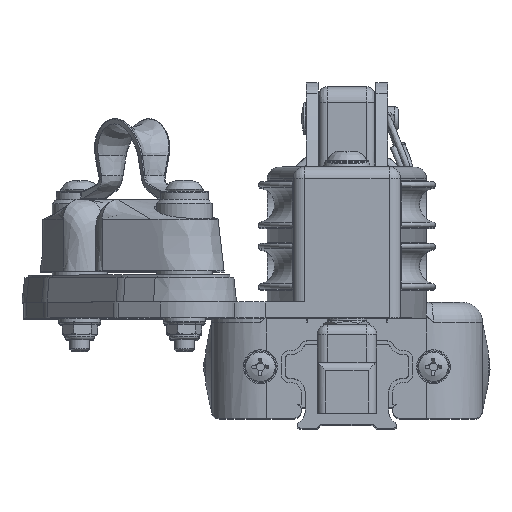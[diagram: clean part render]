
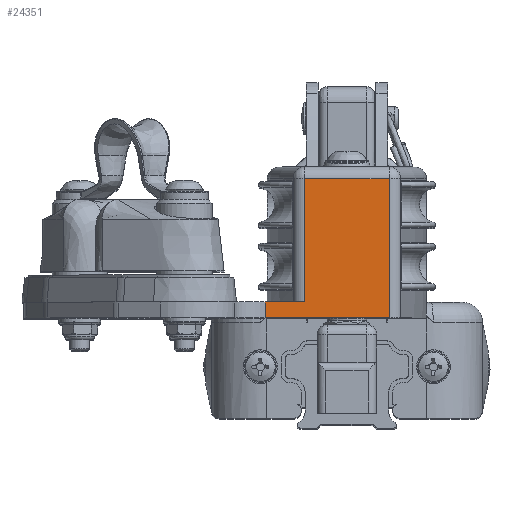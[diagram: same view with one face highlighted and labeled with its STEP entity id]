
A CAD part, top view. The second image highlights one B-rep face of the part: STEP entity #24351.
In plain terms, the highlighted planar face has unit normal (0, 0, 1).
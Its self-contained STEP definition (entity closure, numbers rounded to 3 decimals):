
#1910=LINE('',#53326,#3312);
#2076=LINE('',#54080,#3478);
#2091=LINE('',#54140,#3493);
#2092=LINE('',#54141,#3494);
#2093=LINE('',#54143,#3495);
#2094=LINE('',#54144,#3496);
#3312=VECTOR('',#32437,10.);
#3478=VECTOR('',#33093,10.);
#3493=VECTOR('',#33166,10.);
#3494=VECTOR('',#33167,10.);
#3495=VECTOR('',#33168,10.);
#3496=VECTOR('',#33169,3.);
#6784=FACE_OUTER_BOUND('',#8314,.T.);
#8314=EDGE_LOOP('',(#21125,#21126,#21127,#21128,#21129,#21130));
#10891=VERTEX_POINT('',#53319);
#10894=VERTEX_POINT('',#53324);
#11089=VERTEX_POINT('',#54076);
#11091=VERTEX_POINT('',#54079);
#11107=VERTEX_POINT('',#54139);
#11108=VERTEX_POINT('',#54142);
#14222=EDGE_CURVE('',#10894,#10891,#1910,.T.);
#14524=EDGE_CURVE('',#11089,#11091,#2076,.T.);
#14555=EDGE_CURVE('',#10894,#11107,#2091,.T.);
#14556=EDGE_CURVE('',#11107,#11091,#2092,.T.);
#14557=EDGE_CURVE('',#11108,#11089,#2093,.T.);
#14558=EDGE_CURVE('',#10891,#11108,#2094,.T.);
#21125=ORIENTED_EDGE('',*,*,#14555,.T.);
#21126=ORIENTED_EDGE('',*,*,#14556,.T.);
#21127=ORIENTED_EDGE('',*,*,#14524,.F.);
#21128=ORIENTED_EDGE('',*,*,#14557,.F.);
#21129=ORIENTED_EDGE('',*,*,#14558,.F.);
#21130=ORIENTED_EDGE('',*,*,#14222,.F.);
#23064=PLANE('',#26942);
#24351=ADVANCED_FACE('',(#6784),#23064,.T.);
#26942=AXIS2_PLACEMENT_3D('',#54138,#33164,#33165);
#32437=DIRECTION('',(1.,0.,0.));
#33093=DIRECTION('',(0.,1.,0.));
#33164=DIRECTION('center_axis',(0.,0.,
1.));
#33165=DIRECTION('ref_axis',(0.,1.,0.));
#33166=DIRECTION('',(0.,-1.,0.));
#33167=DIRECTION('',(-1.,0.,0.));
#33168=DIRECTION('',(-1.,0.,0.));
#33169=DIRECTION('',(0.,-1.,0.));
#53319=CARTESIAN_POINT('',(10.6,62.7,102.));
#53324=CARTESIAN_POINT('',(-10.6,62.7,102.));
#53326=CARTESIAN_POINT('',(0.,62.7,102.));
#54076=CARTESIAN_POINT('',(-20.586,27.7,102.));
#54079=CARTESIAN_POINT('',(-20.586,31.7,102.));
#54080=CARTESIAN_POINT('',(-20.586,29.7,102.));
#54138=CARTESIAN_POINT('Origin',(0.,32.7,
102.));
#54139=CARTESIAN_POINT('',(-10.6,31.7,102.));
#54140=CARTESIAN_POINT('',(-10.6,32.7,102.));
#54141=CARTESIAN_POINT('',(-28.31,31.7,102.));
#54142=CARTESIAN_POINT('',(10.6,27.7,102.));
#54143=CARTESIAN_POINT('',(0.,27.7,102.));
#54144=CARTESIAN_POINT('',(10.6,29.7,102.));
